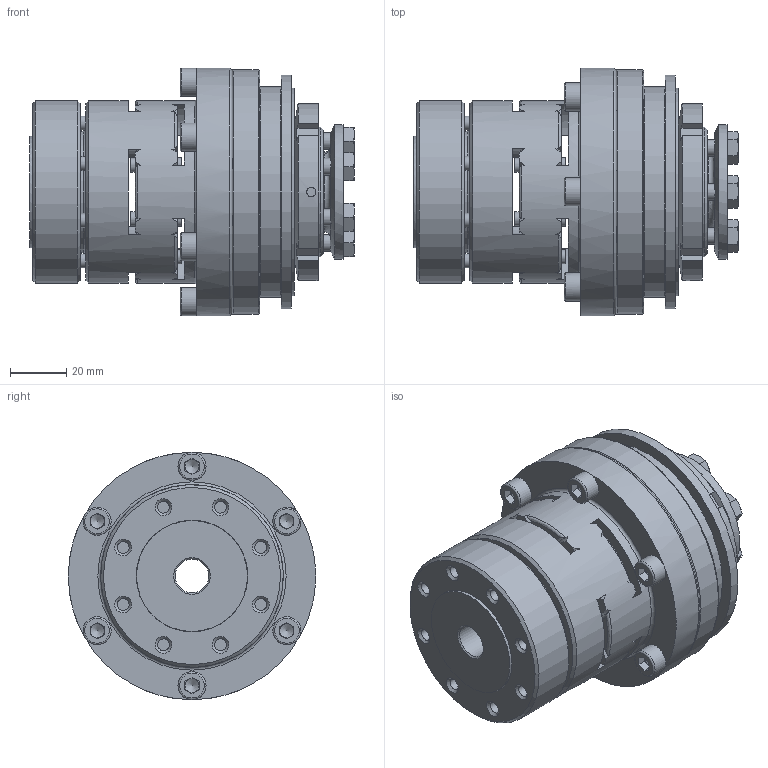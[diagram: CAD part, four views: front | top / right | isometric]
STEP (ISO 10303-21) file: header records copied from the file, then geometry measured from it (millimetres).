
FILE_DESCRIPTION( ( 'Unknown' ), '1' );
FILE_NAME( 'F:/JAKOB-STEP+IGES-Dateien/STEP-Dateien/SKY-ES/SKY-ES 60.stp', 'Unknown', ( 'Unknown' ), ( 'Unknown' ), 'PSStep 10.1', 'Unknown', ' ' );
FILE_SCHEMA( ( 'AUTOMOTIVE_DESIGN { 1 0 10303 214 1 1 1 1 }' ) );
Length unit declared in the file: millimetre
Products named in the file (1): KT101732
Bounding box: 115.5 x 88 x 88 mm (x, y, z)
Volume: 348446.6 mm3; surface area: 108140.6 mm2
Topology: 1 solids, 17 shells, 822 faces, 2156 edges, 1383 vertices
Faces by surface type: plane 382, cylinder 198, cone 144, torus 83, sphere 15
Full cylindrical faces by diameter (mm): 2 x2, 3.3 x3, 4.2 x12, 5 x31, 5.4 x8, 6 x12, 6.4 x12, 8.5 x8, 8.7 x6, 9 x8, 10 x6, 12 x2, 14.5 x1, 25.5 x1, 28.5 x1, 30 x2, 40 x1, 40.5 x1, 42.5 x1, 43.1 x1, 44.8 x1, 45 x2, 46 x2, 46.1 x1, 46.5 x1, 48 x1, 49 x1, 52.3 x2, 56 x1, 60.8 x2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
Entity records: 31336 total; most frequent: CARTESIAN_POINT 6509, DIRECTION 3812, ORIENTED_EDGE 3418, EDGE_CURVE 1709, AXIS2_PLACEMENT_3D 1623, EDGE_LOOP 1229, VERTEX_POINT 1216, FACE_OUTER_BOUND 989
